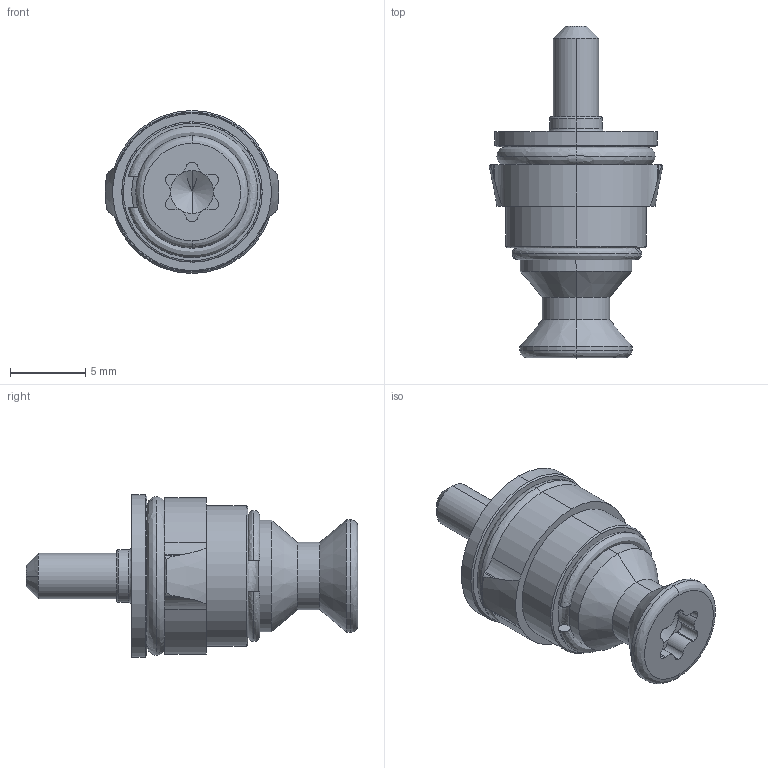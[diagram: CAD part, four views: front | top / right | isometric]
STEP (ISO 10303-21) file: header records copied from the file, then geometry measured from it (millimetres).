
FILE_DESCRIPTION (( 'STEP AP203' ), '1' );
FILE_NAME ('QS022-EAS-M3.STEP', '2016-07-11T09:26:10', ( '' ), ( '' ), 'SwSTEP 2.0', 'SolidWorks 2016', '' );
FILE_SCHEMA (( 'CONFIG_CONTROL_DESIGN' ));
Length unit declared in the file: millimetre
Products named in the file (1): QS022-EAS-M3
Bounding box: 11.51 x 22 x 10.8 mm (x, y, z)
Volume: 872.7 mm3; surface area: 1326.9 mm2
Topology: 7 solids, 7 shells, 181 faces, 481 edges, 281 vertices
Faces by surface type: cylinder 73, cone 55, plane 27, bspline 26
Entity records: 5947 total; most frequent: CARTESIAN_POINT 1719, ORIENTED_EDGE 884, DIRECTION 874, EDGE_CURVE 442, AXIS2_PLACEMENT_3D 368, VERTEX_POINT 281, CIRCLE 212, EDGE_LOOP 191
